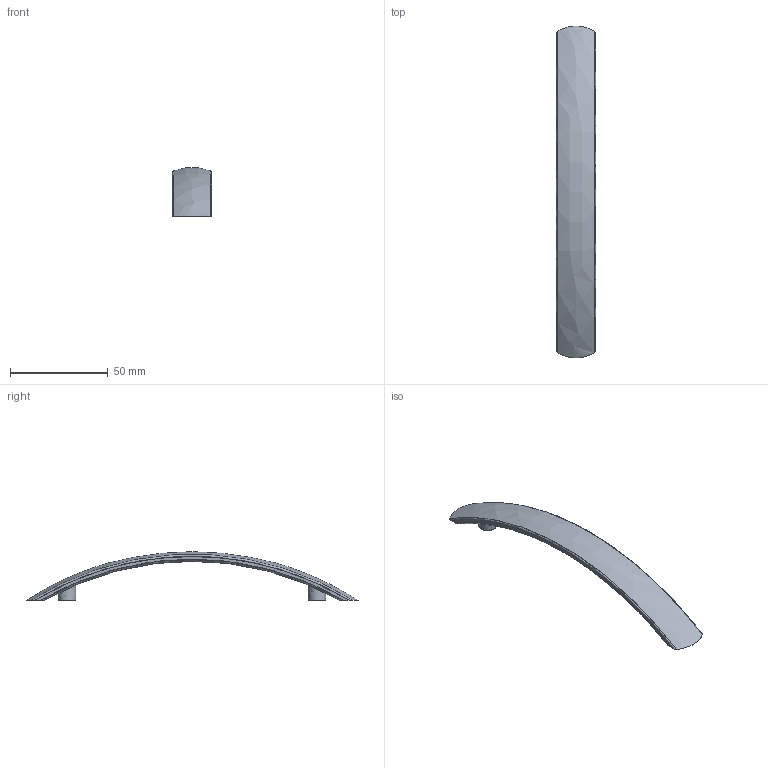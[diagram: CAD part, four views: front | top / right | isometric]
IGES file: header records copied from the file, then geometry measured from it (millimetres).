
Start section: C
Global section: file name: 0064-170.igs; native system: By Siemens PLM Incorporated; preprocessor: XPlus GENERIC/IGES 16.0.42; author: Author; organization: Title; date: 20260104.160751; units: millimetre
Bounding box: 20 x 169.95 x 24.83 mm (x, y, z)
Surface area: 8516.1 mm2 (no closed solid volume)
Topology: 0 solids, 0 shells, 18 faces, 80 edges, 80 vertices
Faces by surface type: bspline 18
